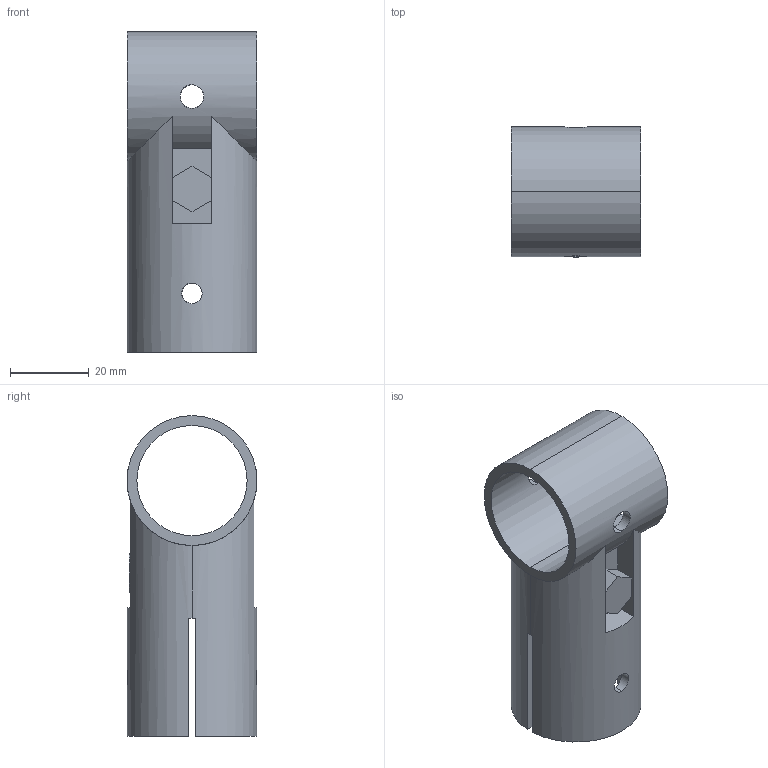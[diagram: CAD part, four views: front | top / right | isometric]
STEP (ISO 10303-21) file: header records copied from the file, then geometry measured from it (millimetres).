
FILE_DESCRIPTION (( 'STEP AP214' ), '1' );
FILE_NAME ('NSJ-1.STEP', '2023-10-11T06:35:57', ( 'catia' ), ( 'HP Inc.' ), 'SwSTEP 2.0', 'SolidWorks 2021', '' );
FILE_SCHEMA (( 'AUTOMOTIVE_DESIGN' ));
Length unit declared in the file: millimetre
Products named in the file (1): NSJ-1
Bounding box: 33 x 33 x 81.5 mm (x, y, z)
Volume: 30522.9 mm3; surface area: 15926.4 mm2
Topology: 1 solids, 1 shells, 43 faces, 113 edges, 74 vertices
Faces by surface type: plane 25, cylinder 18
Entity records: 1845 total; most frequent: CARTESIAN_POINT 743, ORIENTED_EDGE 226, DIRECTION 209, EDGE_CURVE 113, VERTEX_POINT 74, AXIS2_PLACEMENT_3D 72, LINE 65, VECTOR 65
